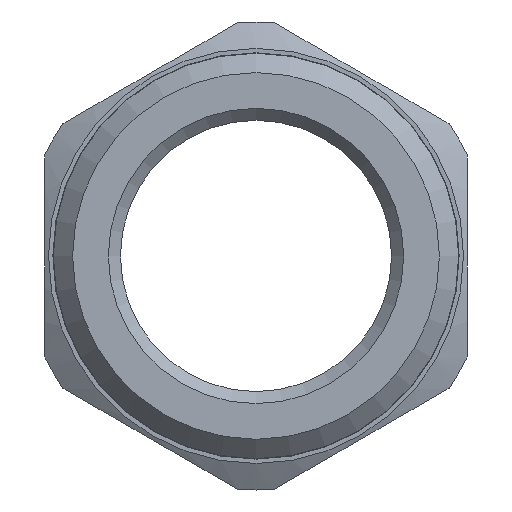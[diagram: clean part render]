
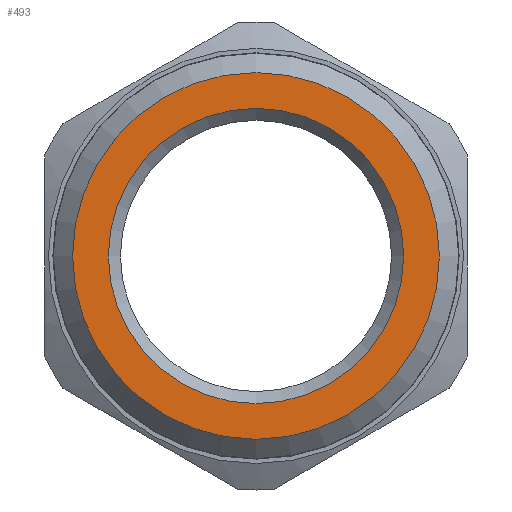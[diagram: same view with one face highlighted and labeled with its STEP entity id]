
A CAD part, front view. The second image highlights one B-rep face of the part: STEP entity #493.
In plain terms, the highlighted planar face has unit normal (0, -1, 0).
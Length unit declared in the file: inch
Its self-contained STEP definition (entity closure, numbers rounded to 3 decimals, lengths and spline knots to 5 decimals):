
#28=FACE_BOUND('',#91,.T.);
#34=PLANE('',#543);
#60=FACE_OUTER_BOUND('',#90,.T.);
#90=EDGE_LOOP('',(#351));
#91=EDGE_LOOP('',(#352));
#172=CIRCLE('',#542,0.306);
#173=CIRCLE('',#544,0.38);
#212=VERTEX_POINT('',#783);
#213=VERTEX_POINT('',#787);
#267=EDGE_CURVE('',#212,#212,#172,.T.);
#268=EDGE_CURVE('',#213,#213,#173,.T.);
#351=ORIENTED_EDGE('',*,*,#268,.F.);
#352=ORIENTED_EDGE('',*,*,#267,.F.);
#493=ADVANCED_FACE('',(#60,#28),#34,.T.);
#542=AXIS2_PLACEMENT_3D('',#785,#626,#627);
#543=AXIS2_PLACEMENT_3D('',#786,#628,#629);
#544=AXIS2_PLACEMENT_3D('',#788,#630,#631);
#626=DIRECTION('center_axis',(0.,-1.,0.));
#627=DIRECTION('ref_axis',(0.,0.,1.));
#628=DIRECTION('center_axis',(0.,-1.,0.));
#629=DIRECTION('ref_axis',(0.,0.,-1.));
#630=DIRECTION('center_axis',(0.,1.,0.));
#631=DIRECTION('ref_axis',(0.,0.,1.));
#783=CARTESIAN_POINT('',(0.,0.,-0.306));
#785=CARTESIAN_POINT('Origin',(0.,0.,0.));
#786=CARTESIAN_POINT('Origin',(0.,0.,-0.281));
#787=CARTESIAN_POINT('',(0.,0.,-0.38));
#788=CARTESIAN_POINT('Origin',(0.,0.,0.));
